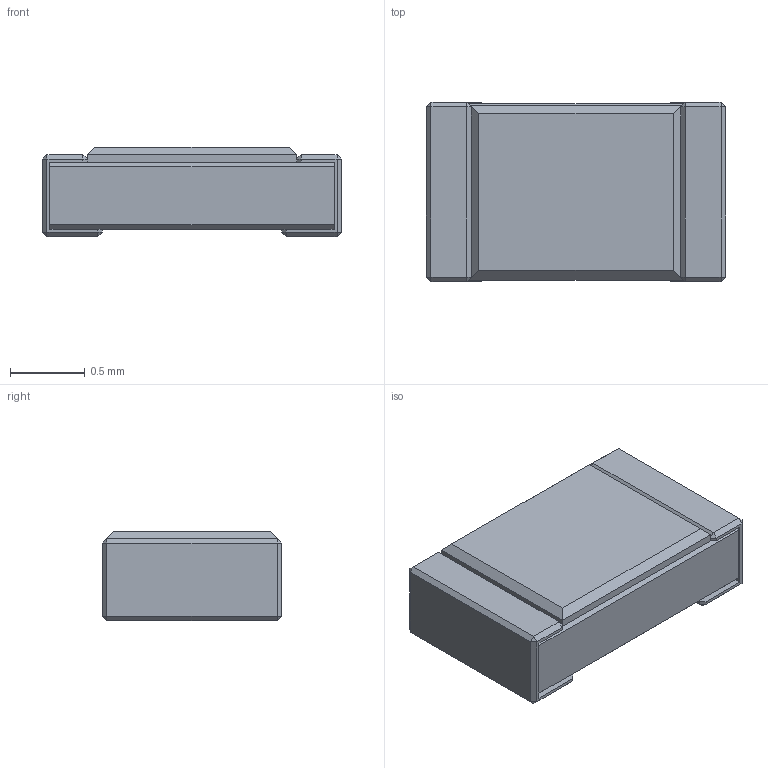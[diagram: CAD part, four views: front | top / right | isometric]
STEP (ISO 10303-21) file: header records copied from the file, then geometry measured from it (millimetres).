
FILE_DESCRIPTION(('FreeCAD Model'),'2;1');
FILE_NAME('/home/kammutierspule/Gliderbits/kicad3Dmodels/generated/Resistors/Chip/Fusion001.step','2017-02-02T21:04:57',('kicad StepUp'),('ksu MCAD'), 'Open CASCADE STEP processor 6.8','FreeCAD','Unknown');
FILE_SCHEMA(('AUTOMOTIVE_DESIGN_CC2 { 1 2 10303 214 -1 1 5 4 }'));
Length unit declared in the file: millimetre
Products named in the file (2): ASSEMBLY; Fusion001
Assembly tree (1 placements, depth 2):
  ASSEMBLY
    Fusion001
Bounding box: 2 x 1.2 x 0.6 mm (x, y, z)
Volume: 1.3 mm3; surface area: 8.4 mm2
Topology: 1 solids, 1 shells, 86 faces, 192 edges, 108 vertices
Faces by surface type: plane 86
Entity records: 5386 total; most frequent: CARTESIAN_POINT 772, DIRECTION 752, LINE 576, VECTOR 576, ORIENTED_EDGE 384, PCURVE 384, DEFINITIONAL_REPRESENTATION 384, EDGE_CURVE 192
